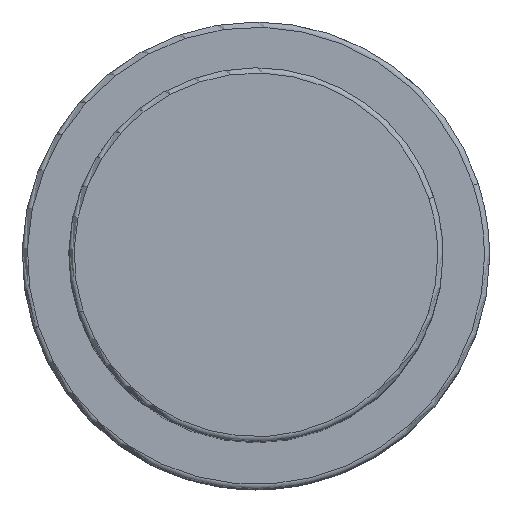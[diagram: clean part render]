
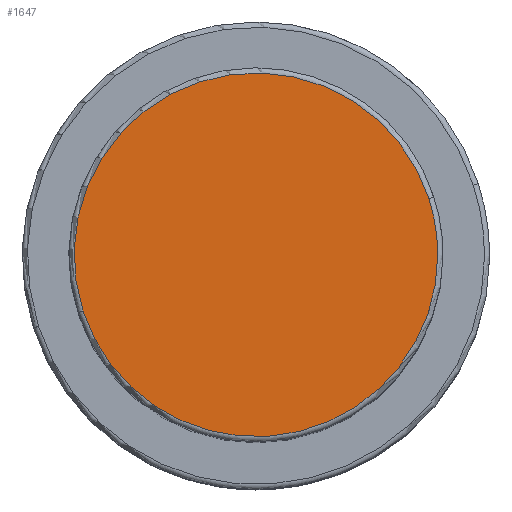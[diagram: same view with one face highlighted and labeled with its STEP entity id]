
A CAD part, top view. The second image highlights one B-rep face of the part: STEP entity #1647.
In plain terms, the highlighted planar face has unit normal (0, 0, 1).
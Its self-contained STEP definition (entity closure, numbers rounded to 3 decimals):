
#1580=CARTESIAN_POINT('',(16.643,5.408,78.0));
#1581=VERTEX_POINT('',#1580);
#1599=CARTESIAN_POINT('',(-16.643,-5.408,78.0));
#1600=VERTEX_POINT('',#1599);
#1608=CARTESIAN_POINT('',(0.0,0.0,78.0));
#1609=DIRECTION('',(0.0,0.0,1.0));
#1610=DIRECTION('',(1.0,0.0,0.0));
#1611=AXIS2_PLACEMENT_3D('',#1608,#1609,#1610);
#1612=CIRCLE('',#1611,17.5);
#1613=EDGE_CURVE('no 1839',#1581,#1600,#1612,.T.);
#1623=CARTESIAN_POINT('',(17.5,0.0,78.0));
#1624=VERTEX_POINT('',#1623);
#1625=CARTESIAN_POINT('',(0.0,0.0,78.0));
#1626=DIRECTION('',(0.0,0.0,1.0));
#1627=DIRECTION('',(1.0,0.0,0.0));
#1628=AXIS2_PLACEMENT_3D('',#1625,#1626,#1627);
#1629=CIRCLE('',#1628,17.5);
#1630=EDGE_CURVE('no 1848',#1624,#1581,#1629,.T.);
#1631=ORIENTED_EDGE('',*,*,#1630,.T.);
#1632=ORIENTED_EDGE('',*,*,#1613,.T.);
#1633=CARTESIAN_POINT('',(0.0,0.0,78.0));
#1634=DIRECTION('',(0.0,0.0,1.0));
#1635=DIRECTION('',(1.0,0.0,0.0));
#1636=AXIS2_PLACEMENT_3D('',#1633,#1634,#1635);
#1637=CIRCLE('',#1636,17.5);
#1638=EDGE_CURVE('no 1854',#1600,#1624,#1637,.T.);
#1639=ORIENTED_EDGE('',*,*,#1638,.T.);
#1640=EDGE_LOOP('',(#1631,#1632,#1639));
#1641=FACE_OUTER_BOUND('',#1640,.T.);
#1642=CARTESIAN_POINT('',(0.0,0.0,78.0));
#1643=DIRECTION('',(0.0,0.0,1.0));
#1644=DIRECTION('',(1.0,0.0,0.0));
#1645=AXIS2_PLACEMENT_3D('',#1642,#1643,#1644);
#1646=PLANE('',#1645);
#1647=ADVANCED_FACE('no 1841',(#1641),#1646,.T.);
